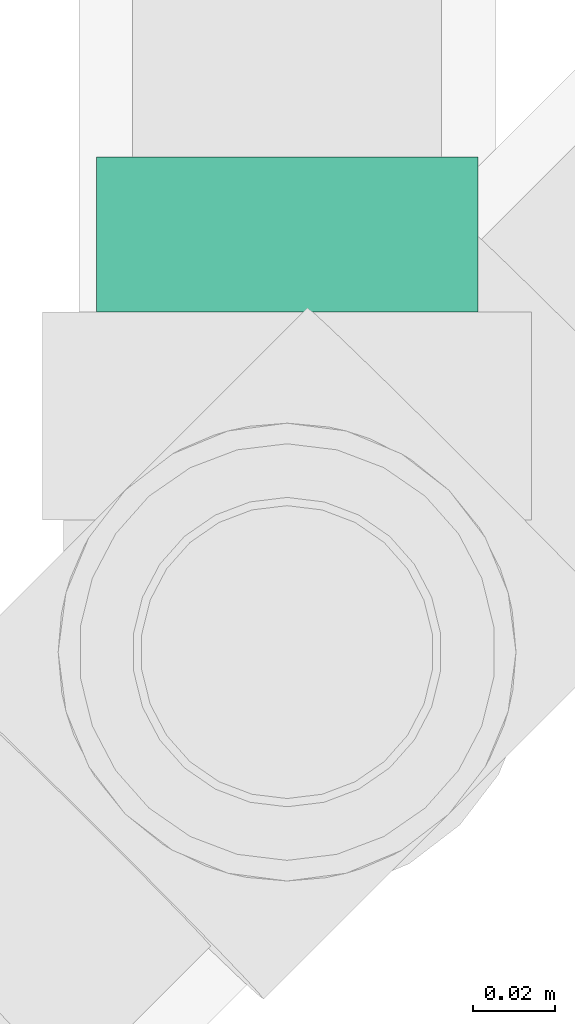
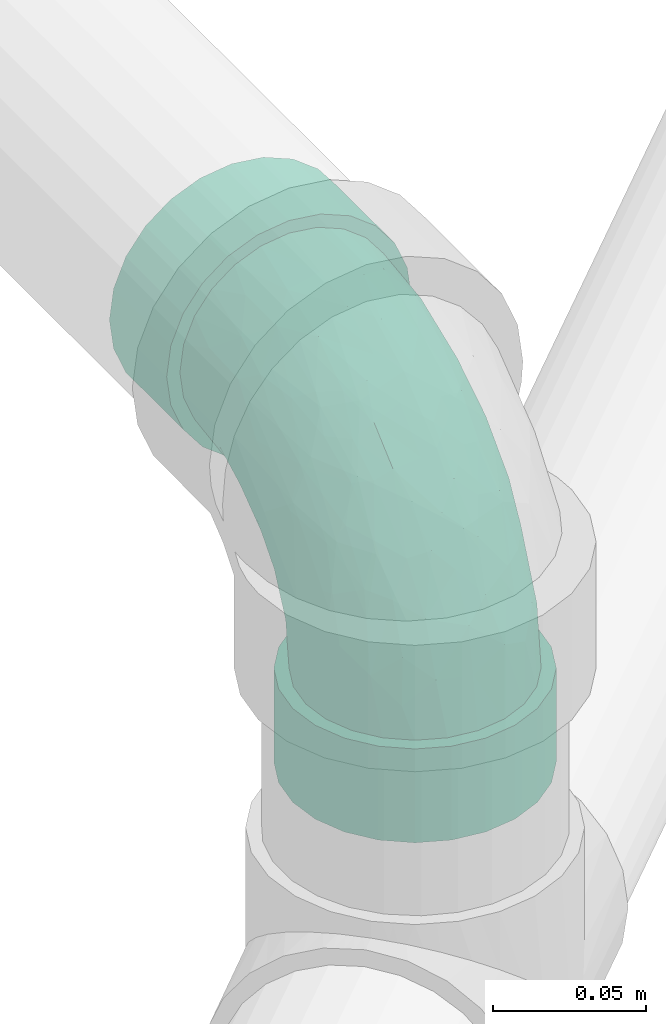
# One storey, part 112 of 156: 1 flow fitting.
"""IFC2X3 building model written with IfcOpenShell, lengths in millimetres."""

from ifc_helpers import new_model, entity, si_unit, converted_unit, derived_unit, direction, frame, origin_with_axes, place, context, subcontext, project, spatial, open_shell, surface_model, source, transform, mapped, type_object, element, save


model = new_model("IFC2X3")

# Units and contexts
model_context = context("Model", 3, precision=0.01, world=frame((0.0, 4.29681676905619e-09, 0.0)), true_north=direction((4.01073788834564e-13, 1.0)))
plan_context = context("Plan", 3, precision=0.01, world=frame((0.0, 4.29681676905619e-09, 0.0)), true_north=direction((4.01073788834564e-13, 1.0)))
body_context = subcontext(model_context, "Body", "Model", "MODEL_VIEW")
ifc_project = project(units=[converted_unit("PLANEANGLEUNIT", "DEGREE", entity("IfcPositiveLengthMeasure", 0.0174532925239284), si_unit("PLANEANGLEUNIT", "RADIAN"), dimensions=[0, 0, 0, 0, 0, 0, 0]), si_unit("AREAUNIT", "SQUARE_METRE"), si_unit("LENGTHUNIT", "METRE", prefix="MILLI"), si_unit("MASSUNIT", "GRAM", prefix="KILO"), si_unit("POWERUNIT", "WATT"), si_unit("PRESSUREUNIT", "PASCAL", prefix="KILO"), si_unit("FORCEUNIT", "NEWTON", prefix="KILO"), si_unit("ELECTRICVOLTAGEUNIT", "VOLT"), si_unit("ELECTRICCURRENTUNIT", "AMPERE"), si_unit("THERMODYNAMICTEMPERATUREUNIT", "DEGREE_CELSIUS"), si_unit("TIMEUNIT", "SECOND"), si_unit("VOLUMEUNIT", "CUBIC_METRE"), derived_unit("LINEARVELOCITYUNIT", [(si_unit("LENGTHUNIT", "METRE"), 1), (si_unit("TIMEUNIT", "SECOND"), -1)]), derived_unit("VOLUMETRICFLOWRATEUNIT", [(si_unit("VOLUMEUNIT", "CUBIC_METRE"), 1), (si_unit("TIMEUNIT", "SECOND"), -1)]), derived_unit("THERMALTRANSMITTANCEUNIT", [(si_unit("POWERUNIT", "WATT"), 1), (si_unit("THERMODYNAMICTEMPERATUREUNIT", "KELVIN"), -1), (si_unit("AREAUNIT", "SQUARE_METRE"), -1)]), derived_unit("SOUNDPRESSUREUNIT", [(si_unit("PRESSUREUNIT", "PASCAL"), 1)])], contexts=[model_context, plan_context])

# Site, building, storey
site_placement = place(None, frame((0.0, -4.29681676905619e-09, 0.0), z_axis=(0.0, 0.0, 1.0), x_axis=(1.0, 0.0, 0.0)))
site = spatial("IfcSite", under=ifc_project, at=site_placement, CompositionType="ELEMENT")
building_placement = place(site_placement, frame((0.0, 4.29681676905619e-09, 0.0), z_axis=(0.0, 0.0, 1.0), x_axis=(1.0, 0.0, 0.0)))
building = spatial("IfcBuilding", under=site, at=building_placement, Name="mc-building", CompositionType="ELEMENT")
storey_placement = place(building_placement, frame((0.0, 0.0, 205200.0), z_axis=(0.0, 0.0, 1.0), x_axis=(1.0, 0.0, 0.0)))
storey = spatial("IfcBuildingStorey", under=building, at=storey_placement, Name="Nivå D + 1,2 m", CompositionType="ELEMENT", Elevation=205200.0)

# Flow fitting
pipe_fitting_type = type_object("IfcPipeFittingType", Name="magi_sewer_bend_001", PredefinedType="BEND")
shared_shape = source(origin_with_axes(), body_context, "Body", "SurfaceModel", [
    surface_model("IfcShellBasedSurfaceModel", [(-120.0, -23.125, -40.05367), (-120.0, 11.97038, -44.67407), (-120.0, -11.97038, -44.67407), (-120.0, -40.05367, -23.125), (-120.0, -32.70369, -32.70369), (-120.0, 32.70369, -32.70369), (-120.0, -44.67407, -11.97038), (-120.0, -32.70369, 32.70369), (-120.0, 44.67407, -11.97038), (-120.0, 23.125, -40.05367), (-120.0, 0.0, -46.25), (-120.0, 40.05367, -23.125), (-120.0, -46.25, 0.0), (-120.0, -44.67407, 11.97038), (-120.0, -40.05367, 23.125), (-120.0, -23.125, 40.05367), (-120.0, -11.97038, 44.67407), (-120.0, 0.0, 46.25), (-120.0, 40.05367, 23.125), (-120.0, 11.97038, 44.67407), (-120.0, 44.67407, 11.97038), (-120.0, 46.25, 0.0), (-120.0, 23.125, 40.05367), (-120.0, 32.70369, 32.70369), (-82.5, 0.0, 46.25), (-82.5, -11.97038, 44.67407), (-82.5, -23.125, 40.05367), (-82.5, 40.05367, 23.125), (-82.5, -32.70369, 32.70369), (-82.5, -40.05367, 23.125), (-82.5, -44.67407, 11.97038), (-82.5, 44.67407, -11.97038), (-82.5, -44.67407, -11.97038), (-82.5, 23.125, 40.05367), (-82.5, 32.70369, 32.70369), (-82.5, 11.97038, 44.67407), (-82.5, 44.67407, 11.97038), (-82.5, 46.25, 0.0), (-82.5, -32.70369, -32.70369), (-82.5, -40.05367, -23.125), (-82.5, -23.125, -40.05367), (-82.5, -11.97038, -44.67407), (-82.5, 11.97038, -44.67407), (-82.5, 32.70369, -32.70369), (-82.5, 40.05367, -23.125), (-82.5, 23.125, -40.05367), (-82.5, 0.0, -46.25), (-82.5, -46.25, 0.0), (-11.97038, 120.0, 44.67407), (-44.67407, 120.0, 11.97038), (-40.05367, 120.0, 23.125), (-32.70369, 120.0, 32.70369), (-46.25, 120.0, 0.0), (-23.125, 120.0, 40.05367), (0.0, 120.0, 46.25), (-44.67407, 120.0, -11.97038), (-32.70369, 120.0, -32.70369), (-40.05367, 120.0, -23.125), (-11.97038, 120.0, -44.67407), (-23.125, 120.0, -40.05367), (32.70369, 120.0, 32.70369), (11.97038, 120.0, 44.67407), (23.125, 120.0, 40.05367), (23.125, 120.0, -40.05367), (40.05367, 120.0, 23.125), (44.67407, 120.0, 11.97038), (46.25, 120.0, 0.0), (11.97038, 120.0, -44.67407), (0.0, 120.0, -46.25), (40.05367, 120.0, -23.125), (32.70369, 120.0, -32.70369), (44.67407, 120.0, -11.97038), (46.25, 82.5, 0.0), (44.67407, 82.5, 11.97038), (40.05367, 82.5, 23.125), (32.70369, 82.5, 32.70369), (23.125, 82.5, 40.05367), (11.97038, 82.5, 44.67407), (23.125, 82.5, -40.05367), (-11.97038, 82.5, 44.67407), (40.05367, 82.5, -23.125), (32.70369, 82.5, -32.70369), (44.67407, 82.5, -11.97038), (11.97038, 82.5, -44.67407), (-11.97038, 82.5, -44.67407), (0.0, 82.5, -46.25), (-32.70369, 82.5, 32.70369), (-23.125, 82.5, 40.05367), (-40.05367, 82.5, 23.125), (-44.67407, 82.5, 11.97038), (-44.67407, 82.5, -11.97038), (-32.70369, 82.5, -32.70369), (-23.125, 82.5, -40.05367), (-40.05367, 82.5, -23.125), (-46.25, 82.5, 0.0), (0.0, 82.5, 46.25), (-82.5, 10.67629, -39.84444), (-82.5, 0.0, -41.25), (-82.5, 35.72355, -20.625), (-82.5, 20.625, -35.72355), (-82.5, -10.67629, -39.84444), (-82.5, 29.16816, -29.16816), (-82.5, 39.84444, -10.67629), (-82.5, -29.16816, -29.16816), (-82.5, -35.72355, -20.625), (-82.5, -20.625, -35.72355), (-82.5, -39.84444, -10.67629), (-82.5, -41.25, 0.0), (-82.5, -39.84444, 10.67629), (-82.5, 35.72355, 20.625), (-82.5, 39.84444, 10.67629), (-82.5, 41.25, 0.0), (-82.5, 0.0, 41.25), (-82.5, 10.67629, 39.84444), (-82.5, 20.625, 35.72355), (-82.5, 29.16816, 29.16816), (-82.5, -35.72355, 20.625), (-82.5, -29.16816, 29.16816), (-82.5, -20.625, 35.72355), (-82.5, -10.67629, 39.84444), (-35.72355, 82.5, -20.625), (0.0, 82.5, -41.25), (-10.67629, 82.5, -39.84444), (-20.625, 82.5, -35.72355), (10.67629, 82.5, -39.84444), (-29.16816, 82.5, -29.16816), (-39.84444, 82.5, -10.67629), (20.625, 82.5, -35.72355), (35.72355, 82.5, -20.625), (29.16816, 82.5, -29.16816), (39.84444, 82.5, -10.67629), (39.84444, 82.5, 10.67629), (41.25, 82.5, 0.0), (-41.25, 82.5, 0.0), (-39.84444, 82.5, 10.67629), (-35.72355, 82.5, 20.625), (-29.16816, 82.5, 29.16816), (-20.625, 82.5, 35.72355), (-10.67629, 82.5, 39.84444), (0.0, 82.5, 41.25), (29.16816, 82.5, 29.16816), (35.72355, 82.5, 20.625), (10.67629, 82.5, 39.84444), (20.625, 82.5, 35.72355), (-55.72814, -36.1776, 12.96429), (-60.49914, -32.04437, 23.15494), (-44.25915, -35.19324, 0.0), (-62.2126, -38.03679, 0.0), (-10.56358, -14.24607, 15.90656), (-2.8711, -11.01915, 8.67502), (2.38278, -2.38278, 17.09188), (-63.0168, -5.4645, 40.54452), (-57.76339, 6.32307, 41.17969), (14.0914, 10.07341, 15.49516), (25.18921, 33.56703, 20.51775), (9.66064, 14.96653, 26.32758), (-41.06824, -0.37018, 39.9817), (-60.34145, -15.56356, 37.09811), (-32.03718, -9.74405, 34.47852), (-52.91507, -23.5653, 30.64349), (-36.95973, -31.6163, 8.48643), (-27.01036, -26.40455, 0.0), (-14.96653, -9.66064, 26.32758), (-7.36843, 7.36843, 33.72537), (-40.32213, 65.83724, 17.92869), (-34.45895, 64.22156, 27.09988), (-15.39788, 71.15352, 38.63799), (-5.65348, 61.70418, 41.14868), (-63.58718, 16.17806, 38.96653), (-10.7674, 27.62817, 40.50328), (-20.49628, 7.56739, 38.51919), (-4.21406, 22.28624, 37.90825), (-71.36793, 24.98029, 33.61149), (-14.3363, 40.56521, 41.17599), (-30.55447, 30.55447, 40.24771), (-24.56235, 18.02591, 41.03752), (-65.21487, 43.93733, 9.06945), (-65.85774, 40.31547, 17.92594), (-51.21733, 51.21733, 15.41959), (-64.48341, 34.38693, 27.07105), (23.5653, 52.91507, 30.64349), (-42.78043, 54.68047, 23.34707), (15.56356, 60.34145, 37.09811), (32.04437, 60.49914, 23.15494), (36.1776, 55.72814, 12.96429), (-9.76157, -17.61585, 0.0), (-20.03034, -22.69012, 10.6876), (5.4645, 63.0168, 40.54452), (-45.32859, 17.66931, 40.5118), (-40.4771, 10.10802, 41.2324), (26.40455, 27.01036, 0.0), (31.6163, 36.95973, 8.48643), (22.69012, 20.03034, 10.6876), (38.03679, 62.2126, 0.0), (-43.85355, 27.9892, 38.15383), (-33.56703, -25.18921, 20.51775), (-29.90607, 53.31585, 34.66945), (-25.20081, 69.16955, 33.78262), (-43.42086, 66.54566, 8.84944), (-51.69795, 54.10406, 7.25972), (19.00415, 33.22861, 27.95733), (9.74405, 32.03718, 34.47852), (-46.77645, 61.875, 0.0), (-38.18698, 43.56062, 33.89516), (-56.80313, 28.00121, 34.73675), (-0.63046, 0.63046, 24.37081), (-23.53897, 42.70076, 39.65388), (-32.86333, 39.93617, 37.53282), (-17.83986, 55.89476, 39.28486), (-43.48176, 46.06754, 29.21924), (-52.97943, 44.3237, 23.00196), (0.37018, 41.06824, 39.9817), (-33.0747, -18.08091, 28.7621), (11.24879, 2.99586, 8.22487), (35.19324, 44.25915, 0.0), (17.61585, 9.76157, 0.0), (-61.875, 46.77645, 0.0), (3.92714, -3.92714, 0.0), (-60.82916, 35.52512, -27.47601), (-65.81999, 40.32775, -17.931), (-33.69923, -10.41028, -34.60784), (-35.81917, -0.51455, -39.23358), (-16.57372, -0.69027, -33.80009), (-65.30191, 5.2158, -41.11575), (-60.17745, -36.92811, -13.44785), (-51.82956, -30.59013, -22.34245), (-39.36047, -30.93297, -13.83924), (-60.01464, 16.83859, -39.11618), (-45.4433, 9.75139, -41.24109), (-35.52512, 60.82916, -27.47601), (-66.7808, 43.28344, -9.02613), (-25.89083, 64.75901, -34.12385), (-16.83859, 60.01463, -39.11618), (-52.48828, 52.48828, -9.84876), (24.64432, 59.67799, -31.14437), (14.2358, 52.23905, -36.68679), (16.262, 69.66705, -37.54221), (-8.03666, -14.51026, -10.86343), (-8.15356, -10.69653, -18.79719), (4.43778, -3.50121, -10.88427), (-24.07017, 22.30502, -41.22659), (-39.10498, 24.40787, -40.02223), (-64.75902, 25.89083, -34.12385), (-69.44827, -32.83731, -23.96637), (-40.13069, 46.85924, -31.06963), (-38.12346, 38.12345, -36.21895), (-50.41814, 34.84524, -32.77099), (3.59723, -0.75817, -17.67968), (-59.67799, -24.64432, -31.14437), (30.59013, 51.82956, -22.34245), (36.92811, 60.17745, -13.44785), (30.93297, 39.36047, -13.83924), (-69.66705, -16.262, -37.54221), (5.20112, 60.77445, -40.49578), (-26.07779, -20.07799, -22.50292), (-30.79941, -16.82691, -28.85629), (-14.95343, -10.19284, -25.79086), (-45.0183, -18.83497, -32.38875), (-52.23905, -14.2358, -36.68679), (-60.77445, -5.20112, -40.49578), (-30.91032, 50.74726, -34.94284), (-43.28344, 66.7808, -9.02613), (-5.2158, 65.30191, -41.11575), (-14.56224, 14.56224, -38.95108), (0.51455, 35.81917, -39.23358), (1.73655, 19.37684, -34.40061), (-40.32775, 65.81999, -17.931), (-49.54252, 49.54252, -20.33205), (32.83731, 69.44827, -23.96637), (23.90571, 33.1415, -22.15346), (13.29733, 15.63821, -22.87991), (16.82691, 30.79941, -28.85629), (8.52559, 35.21559, -36.03592), (-9.75139, 45.4433, -41.24109), (-50.15099, 26.54698, -37.1789), (-24.59639, 40.14177, -39.82271), (-0.39104, 0.39104, -23.90156), (-19.10678, -23.06301, -7.09594), (21.15181, 20.4943, -15.36278), (23.06301, 19.10678, -7.09594), (4.8596, 12.57317, -28.93513), (-20.4943, -21.15181, -15.36278)], [open_shell([[[0, 1, 2]], [[3, 0, 4]], [[5, 0, 6]], [[6, 0, 3]], [[7, 8, 6]], [[1, 5, 9]], [[1, 10, 2]], [[5, 8, 11]], [[5, 1, 0]], [[8, 5, 6]], [[6, 12, 13]], [[13, 14, 7]], [[7, 15, 8]], [[15, 16, 17]], [[8, 15, 18]], [[19, 15, 17]], [[8, 20, 21]], [[18, 20, 8]], [[18, 22, 23]], [[22, 18, 19]], [[15, 19, 18]], [[6, 13, 7]], [[24, 25, 26]], [[27, 24, 26]], [[28, 29, 30]], [[31, 27, 26]], [[26, 28, 32]], [[33, 27, 34]], [[27, 33, 35]], [[36, 31, 37]], [[27, 35, 24]], [[36, 27, 31]], [[28, 30, 32]], [[31, 26, 32]], [[38, 32, 39]], [[32, 40, 31]], [[40, 32, 38]], [[41, 42, 40]], [[31, 43, 44]], [[31, 40, 43]], [[43, 42, 45]], [[43, 40, 42]], [[46, 42, 41]], [[32, 30, 47]], [[31, 8, 37]], [[44, 11, 31]], [[9, 43, 45]], [[44, 43, 5]], [[1, 45, 42]], [[31, 11, 8]], [[8, 21, 37]], [[1, 9, 45]], [[5, 43, 9]], [[5, 11, 44]], [[10, 1, 42]], [[42, 46, 10]], [[46, 41, 2]], [[3, 39, 32]], [[39, 4, 38]], [[6, 32, 47]], [[2, 40, 0]], [[40, 2, 41]], [[40, 38, 0]], [[38, 4, 0]], [[39, 3, 4]], [[6, 3, 32]], [[47, 12, 6]], [[46, 2, 10]], [[30, 13, 47]], [[29, 14, 30]], [[15, 28, 26]], [[29, 28, 7]], [[16, 26, 25]], [[30, 14, 13]], [[13, 12, 47]], [[16, 15, 26]], [[7, 28, 15]], [[7, 14, 29]], [[17, 16, 25]], [[25, 24, 17]], [[34, 22, 33]], [[36, 18, 27]], [[34, 27, 23]], [[20, 36, 37]], [[33, 19, 35]], [[33, 22, 19]], [[19, 17, 35]], [[34, 23, 22]], [[27, 18, 23]], [[20, 18, 36]], [[37, 21, 20]], [[35, 17, 24]], [[48, 49, 50]], [[48, 50, 51]], [[49, 48, 52]], [[48, 51, 53]], [[52, 48, 54]], [[55, 56, 57]], [[56, 55, 52]], [[56, 58, 59]], [[58, 56, 52]], [[52, 54, 58]], [[54, 60, 58]], [[61, 62, 60]], [[60, 63, 58]], [[64, 65, 66]], [[64, 66, 60]], [[63, 60, 66]], [[58, 67, 68]], [[63, 67, 58]], [[63, 69, 70]], [[69, 63, 71]], [[66, 71, 63]], [[60, 54, 61]], [[72, 73, 74]], [[72, 74, 75]], [[75, 76, 77]], [[72, 75, 78]], [[79, 78, 75]], [[80, 78, 81]], [[78, 80, 82]], [[83, 84, 85]], [[78, 82, 72]], [[83, 78, 84]], [[79, 75, 77]], [[84, 78, 79]], [[86, 79, 87]], [[88, 89, 79]], [[88, 79, 86]], [[90, 79, 89]], [[84, 91, 92]], [[84, 79, 91]], [[91, 90, 93]], [[79, 90, 91]], [[89, 94, 90]], [[79, 77, 95]], [[84, 58, 85]], [[92, 59, 84]], [[57, 91, 93]], [[92, 91, 56]], [[55, 93, 90]], [[84, 59, 58]], [[58, 68, 85]], [[55, 57, 93]], [[56, 91, 57]], [[56, 59, 92]], [[52, 55, 90]], [[90, 94, 52]], [[94, 89, 49]], [[53, 87, 79]], [[87, 51, 86]], [[48, 79, 95]], [[49, 88, 50]], [[88, 49, 89]], [[88, 86, 50]], [[86, 51, 50]], [[87, 53, 51]], [[48, 53, 79]], [[95, 54, 48]], [[94, 49, 52]], [[77, 61, 95]], [[76, 62, 77]], [[64, 75, 74]], [[76, 75, 60]], [[65, 74, 73]], [[77, 62, 61]], [[61, 54, 95]], [[65, 64, 74]], [[60, 75, 64]], [[60, 62, 76]], [[66, 65, 73]], [[73, 72, 66]], [[81, 69, 80]], [[83, 63, 78]], [[81, 78, 70]], [[67, 83, 85]], [[80, 71, 82]], [[80, 69, 71]], [[71, 66, 82]], [[81, 70, 69]], [[78, 63, 70]], [[67, 63, 83]], [[85, 68, 67]], [[82, 66, 72]], [[96, 97, 98]], [[99, 96, 98]], [[100, 98, 97]], [[101, 99, 98]], [[102, 98, 100]], [[103, 104, 105]], [[100, 105, 104]], [[104, 106, 100]], [[106, 102, 100]], [[107, 108, 106]], [[108, 102, 106]], [[109, 110, 111]], [[109, 111, 112]], [[113, 114, 115]], [[109, 113, 115]], [[113, 109, 112]], [[116, 117, 108]], [[112, 108, 117]], [[118, 119, 117]], [[112, 117, 119]], [[112, 111, 108]], [[102, 108, 111]], [[120, 121, 122]], [[120, 122, 123]], [[121, 120, 124]], [[120, 123, 125]], [[124, 120, 126]], [[127, 128, 129]], [[128, 127, 124]], [[124, 130, 128]], [[124, 126, 130]], [[130, 131, 132]], [[130, 126, 131]], [[133, 134, 135]], [[131, 133, 135]], [[136, 137, 138]], [[136, 138, 135]], [[139, 135, 138]], [[131, 140, 141]], [[140, 131, 139]], [[140, 142, 143]], [[142, 140, 139]], [[131, 135, 139]], [[133, 131, 126]], [[144, 145, 116]], [[146, 144, 147]], [[148, 149, 150]], [[108, 144, 116]], [[108, 147, 144]], [[112, 151, 152]], [[116, 145, 117]], [[153, 154, 155]], [[156, 157, 158]], [[159, 118, 117]], [[159, 157, 118]], [[160, 146, 161]], [[158, 162, 163]], [[135, 164, 165]], [[138, 166, 167]], [[113, 168, 114]], [[169, 170, 171]], [[114, 172, 115]], [[119, 151, 112]], [[173, 174, 175]], [[176, 177, 178]], [[109, 179, 177]], [[180, 140, 143]], [[111, 110, 176]], [[110, 109, 177]], [[164, 181, 165]], [[179, 109, 115]], [[112, 152, 113]], [[143, 182, 180]], [[115, 172, 179]], [[183, 154, 184]], [[135, 134, 164]], [[185, 186, 161]], [[139, 187, 142]], [[161, 186, 160]], [[139, 138, 167]], [[188, 189, 175]], [[184, 131, 141]], [[141, 140, 183]], [[183, 184, 141]], [[190, 191, 192]], [[184, 193, 131]], [[194, 168, 188]], [[145, 195, 159]], [[165, 196, 197]], [[178, 198, 199]], [[200, 201, 155]], [[202, 198, 133]], [[194, 203, 204]], [[198, 178, 164]], [[182, 143, 142]], [[165, 136, 135]], [[205, 150, 153]], [[206, 196, 207]], [[118, 157, 119]], [[197, 137, 136]], [[166, 138, 137]], [[208, 173, 167]], [[180, 182, 201]], [[192, 191, 154]], [[196, 165, 209]], [[168, 113, 152]], [[204, 209, 179]], [[177, 210, 178]], [[208, 206, 173]], [[187, 167, 211]], [[158, 157, 159]], [[151, 157, 156]], [[212, 195, 162]], [[170, 158, 163]], [[187, 182, 142]], [[201, 182, 211]], [[171, 201, 211]], [[205, 163, 162]], [[155, 201, 163]], [[144, 160, 195]], [[195, 145, 144]], [[159, 117, 145]], [[140, 180, 183]], [[154, 183, 180]], [[188, 168, 152]], [[172, 168, 204]], [[198, 164, 134]], [[178, 210, 181]], [[194, 207, 203]], [[208, 166, 197]], [[210, 179, 209]], [[178, 199, 176]], [[188, 175, 174]], [[211, 167, 173]], [[170, 175, 156]], [[173, 175, 169]], [[167, 187, 139]], [[182, 187, 211]], [[157, 151, 119]], [[152, 151, 156]], [[153, 150, 213]], [[200, 155, 154]], [[212, 162, 158]], [[148, 195, 186]], [[108, 107, 147]], [[193, 184, 214]], [[193, 132, 131]], [[149, 186, 185]], [[186, 149, 148]], [[190, 192, 215]], [[184, 191, 214]], [[213, 150, 149]], [[188, 152, 189]], [[194, 188, 174]], [[207, 194, 174]], [[168, 194, 204]], [[206, 207, 174]], [[203, 207, 196]], [[133, 198, 134]], [[198, 202, 199]], [[202, 216, 199]], [[199, 216, 176]], [[111, 176, 216]], [[110, 177, 176]], [[152, 156, 189]], [[156, 175, 189]], [[213, 217, 215]], [[217, 213, 149]], [[149, 185, 217]], [[215, 192, 213]], [[213, 192, 153]], [[173, 206, 174]], [[196, 206, 208]], [[179, 210, 177]], [[181, 210, 209]], [[165, 181, 209]], [[178, 181, 164]], [[205, 148, 150]], [[195, 148, 162]], [[165, 197, 136]], [[208, 197, 196]], [[196, 209, 203]], [[204, 203, 209]], [[158, 170, 156]], [[171, 170, 163]], [[201, 171, 163]], [[169, 171, 211]], [[173, 169, 211]], [[170, 169, 175]], [[195, 160, 186]], [[146, 160, 144]], [[214, 191, 190]], [[154, 191, 184]], [[154, 153, 192]], [[205, 153, 155]], [[168, 172, 114]], [[179, 172, 204]], [[197, 166, 137]], [[167, 166, 208]], [[154, 180, 200]], [[201, 200, 180]], [[163, 205, 155]], [[148, 205, 162]], [[158, 159, 212]], [[195, 212, 159]], [[218, 98, 219]], [[220, 221, 222]], [[97, 96, 223]], [[224, 225, 226]], [[223, 227, 228]], [[120, 125, 229]], [[216, 230, 111]], [[231, 123, 232]], [[219, 230, 233]], [[234, 235, 236]], [[218, 101, 98]], [[237, 238, 239]], [[240, 228, 241]], [[227, 99, 242]], [[224, 104, 243]], [[244, 245, 246]], [[224, 147, 106]], [[238, 247, 239]], [[248, 103, 105]], [[249, 250, 251]], [[252, 248, 105]], [[124, 253, 121]], [[254, 255, 256]], [[243, 104, 103]], [[225, 248, 257]], [[252, 105, 100]], [[258, 259, 221]], [[250, 128, 130]], [[216, 202, 233]], [[245, 244, 260]], [[133, 126, 261]], [[259, 100, 97]], [[98, 102, 219]], [[122, 262, 232]], [[263, 264, 265]], [[266, 229, 267]], [[122, 121, 262]], [[127, 129, 234]], [[253, 124, 236]], [[126, 120, 266]], [[129, 128, 268]], [[123, 231, 125]], [[228, 227, 241]], [[124, 127, 236]], [[269, 270, 271]], [[265, 264, 272]], [[122, 232, 123]], [[271, 234, 269]], [[264, 273, 253]], [[259, 258, 252]], [[249, 268, 250]], [[104, 224, 106]], [[250, 193, 214]], [[227, 274, 241]], [[99, 101, 242]], [[271, 235, 234]], [[251, 214, 190]], [[227, 96, 99]], [[242, 274, 227]], [[266, 233, 261]], [[245, 275, 241]], [[267, 229, 244]], [[256, 276, 238]], [[161, 277, 185]], [[266, 261, 126]], [[233, 267, 219]], [[268, 234, 129]], [[234, 249, 269]], [[264, 253, 235]], [[262, 253, 273]], [[272, 271, 265]], [[264, 263, 240]], [[250, 130, 193]], [[251, 278, 269]], [[258, 220, 257]], [[243, 248, 225]], [[223, 259, 97]], [[228, 240, 221]], [[228, 221, 259]], [[221, 263, 222]], [[225, 254, 226]], [[130, 132, 193]], [[239, 278, 279]], [[265, 222, 263]], [[101, 218, 242]], [[274, 246, 245]], [[232, 275, 260]], [[229, 125, 231]], [[219, 102, 230]], [[218, 219, 267]], [[229, 266, 120]], [[233, 266, 267]], [[280, 271, 270]], [[276, 256, 222]], [[222, 265, 280]], [[222, 255, 220]], [[147, 224, 146]], [[147, 107, 106]], [[227, 223, 96]], [[259, 223, 228]], [[253, 262, 121]], [[232, 262, 273]], [[260, 275, 245]], [[240, 263, 221]], [[275, 240, 241]], [[264, 240, 273]], [[232, 273, 275]], [[240, 275, 273]], [[237, 217, 185]], [[185, 277, 237]], [[250, 214, 251]], [[279, 251, 190]], [[239, 279, 215]], [[215, 279, 190]], [[251, 279, 278]], [[277, 226, 281]], [[146, 224, 226]], [[226, 277, 161]], [[146, 226, 161]], [[237, 277, 281]], [[238, 237, 281]], [[239, 217, 237]], [[254, 256, 238]], [[238, 276, 247]], [[254, 238, 281]], [[222, 256, 255]], [[226, 254, 281]], [[225, 255, 254]], [[111, 230, 102]], [[216, 233, 230]], [[233, 202, 261]], [[133, 261, 202]], [[270, 247, 276]], [[278, 239, 247]], [[246, 242, 218]], [[245, 241, 274]], [[242, 246, 274]], [[218, 267, 244]], [[244, 246, 218]], [[260, 229, 231]], [[229, 260, 244]], [[260, 231, 232]], [[234, 236, 127]], [[253, 236, 235]], [[250, 268, 128]], [[234, 268, 249]], [[259, 252, 100]], [[248, 252, 258]], [[248, 243, 103]], [[224, 243, 225]], [[251, 269, 249]], [[270, 269, 278]], [[247, 270, 278]], [[270, 276, 280]], [[222, 280, 276]], [[271, 280, 265]], [[264, 235, 272]], [[271, 272, 235]], [[257, 220, 255]], [[221, 220, 258]], [[225, 257, 255]], [[258, 257, 248]], [[239, 215, 217]]])]),
])
flow_fitting_placement = place(storey_placement, frame((322778.39808, 462759.88016, 4241.63939), z_axis=(1.0, 0.0, 0.0), x_axis=(0.0, -1.0, 0.0)))
element("IfcFlowFitting", 1, at=flow_fitting_placement, inside=storey, type_object=pipe_fitting_type, Name="magi_sewer_bend_001", context=body_context, shape_type="MappedRepresentation", body=[
    mapped(shared_shape, transform((0.0, 0.0, 0.0), scale=1.0)),
])

save(model, "model.ifc")
